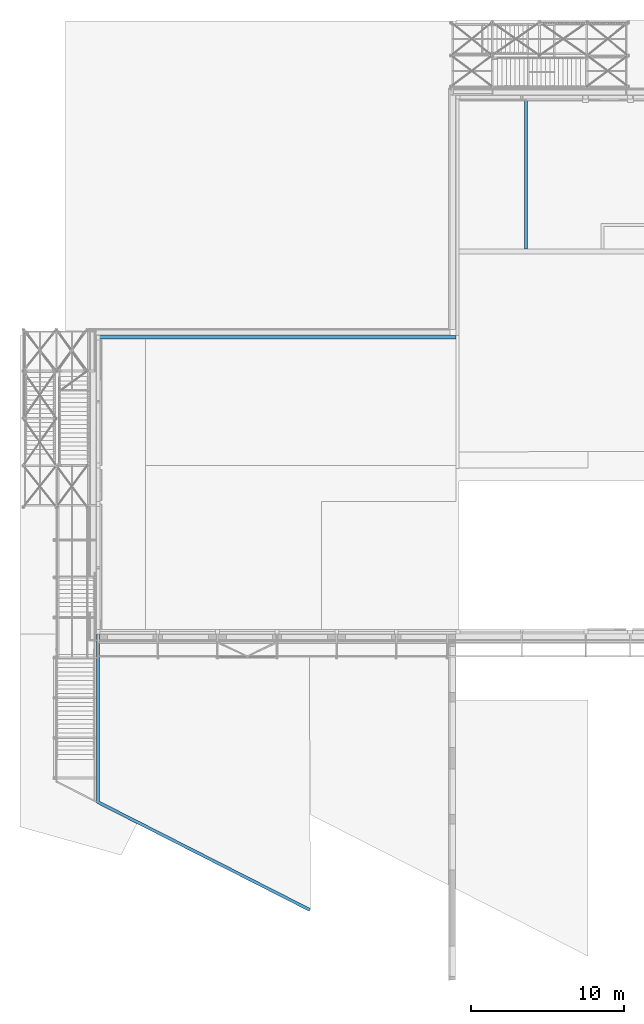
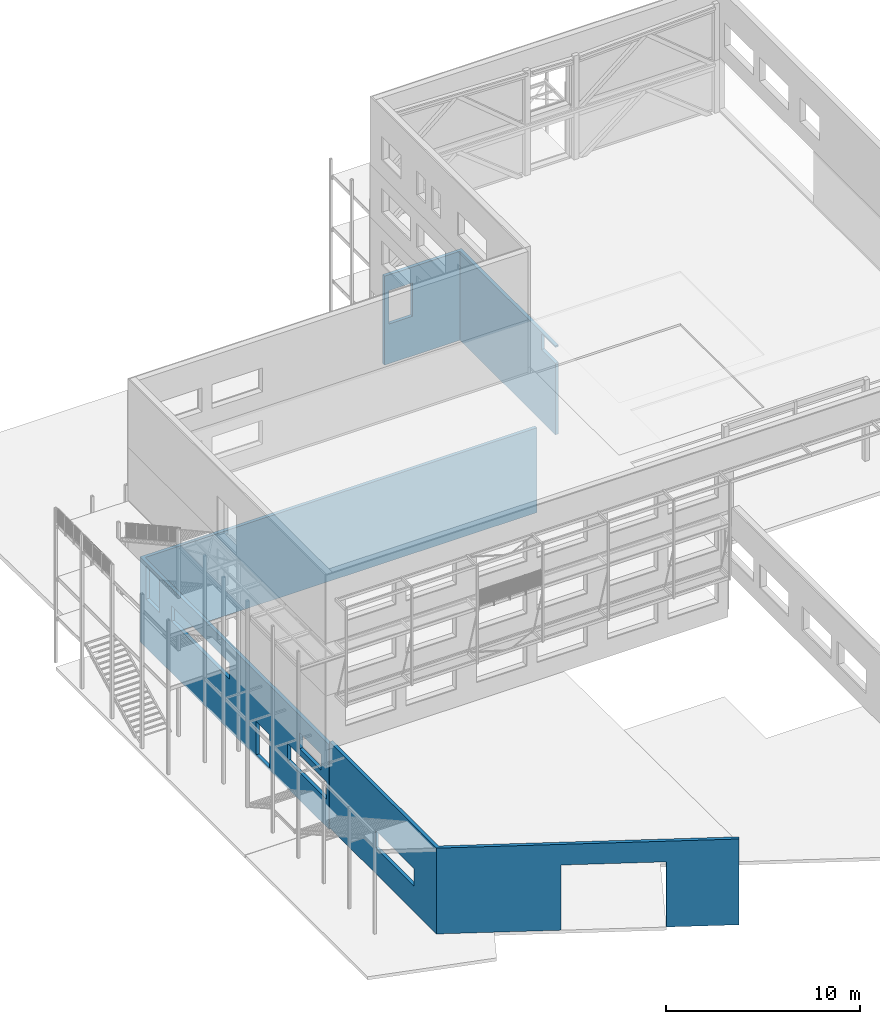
# One storey, part 78 of 78: 3 walls, 3 elements without a shape of their own.
"""IFC2X3 building model written with IfcOpenShell, lengths in millimetres."""

import ifcopenshell
import ifcopenshell.guid

model = None  # the IFC model being written
_history = None  # IfcOwnerHistory: only IFC2X3 demands one
_inside = {}  # id of a spatial element -> (the spatial element, [elements in it])
_under = {}  # id of a project, library or spatial element -> (it, [spatial elements below it])
_declared = {}  # id of a project -> (the project, [libraries it declares])
_typed = {}  # id of a type object -> (the type object, [elements of that type])
_made_of = {}  # id of a material, layer set ... -> (it, [elements and type objects made of it])


def new_model(schema):
    """Start an empty IFC model of exactly this schema.

    Asked for "IFC4X3", IfcOpenShell would pick the latest addendum, in which some entities
    have other attributes; the version numbers below select the first issue.
    IFC2X3 requires an IfcOwnerHistory on every rooted entity: one is made here for all.
    """
    global model, _history
    if schema == "IFC4X3":
        model = ifcopenshell.file(schema_version=(4, 3, 0, 0))
    else:
        model = ifcopenshell.file(schema=schema)
    _inside.clear()
    _under.clear()
    _declared.clear()
    _typed.clear()
    _made_of.clear()
    _history = None
    if model.schema == "IFC2X3":
        org = make("IfcOrganization", Name="unknown")
        user = make(
            "IfcPersonAndOrganization",
            ThePerson=make("IfcPerson", FamilyName="unknown"),
            TheOrganization=org,
        )
        app = make(
            "IfcApplication",
            ApplicationDeveloper=org,
            Version="unknown",
            ApplicationFullName="unknown",
            ApplicationIdentifier="unknown",
        )
        _history = make(
            "IfcOwnerHistory",
            OwningUser=user,
            OwningApplication=app,
            ChangeAction="ADDED",
            CreationDate=0,
        )
    return model


def make(cls, **values):
    """One entity of the class cls with the attributes given. An attribute that is None is left unset."""
    return model.create_entity(
        cls, **{name: value for name, value in values.items() if value is not None}
    )


def rooted(cls, **values):
    """An entity with a GlobalId (a new one), such as an element, a storey or a relation."""
    return make(cls, GlobalId=ifcopenshell.guid.new(), OwnerHistory=_history, **values)


def si_unit(unit_type, name, prefix=None):
    """IfcSIUnit, for example si_unit("LENGTHUNIT", "METRE", prefix="MILLI")."""
    return make("IfcSIUnit", UnitType=unit_type, Prefix=prefix, Name=name)


def assignment(units):
    """IfcUnitAssignment: the units of a project."""
    return None if units is None else make("IfcUnitAssignment", Units=units)


def point(xyz):
    """IfcCartesianPoint."""
    return None if xyz is None else make("IfcCartesianPoint", Coordinates=xyz)


def direction(xyz):
    """IfcDirection."""
    return None if xyz is None else make("IfcDirection", DirectionRatios=xyz)


def frame(location, z_axis=None, x_axis=None):
    """IfcAxis2Placement3D, a coordinate frame: its origin and axes. An axis left out is left unset."""
    return make(
        "IfcAxis2Placement3D",
        Location=point(location),
        Axis=direction(z_axis),
        RefDirection=direction(x_axis),
    )


def origin_with_axes():
    """The frame at (0, 0, 0) with the z axis (0, 0, 1) and the x axis (1, 0, 0) written out."""
    return frame((0.0, 0.0, 0.0), z_axis=(0.0, 0.0, 1.0), x_axis=(1.0, 0.0, 0.0))


def place(relative_to, where):
    """IfcLocalPlacement: puts the frame where relative to a parent placement (None: the world)."""
    return make(
        "IfcLocalPlacement", PlacementRelTo=relative_to, RelativePlacement=where
    )


def context(
    kind, dimensions, precision=None, world=None, true_north=None, identifier=None
):
    """IfcGeometricRepresentationContext, for example the 3D "Model" context."""
    return make(
        "IfcGeometricRepresentationContext",
        ContextIdentifier=identifier,
        ContextType=kind,
        CoordinateSpaceDimension=dimensions,
        Precision=precision,
        WorldCoordinateSystem=world,
        TrueNorth=true_north,
    )


def subcontext(parent, identifier, kind, view, scale=None):
    """IfcGeometricRepresentationSubContext, for example "Body" below "Model"."""
    return make(
        "IfcGeometricRepresentationSubContext",
        ContextIdentifier=identifier,
        ContextType=kind,
        ParentContext=parent,
        TargetScale=scale,
        TargetView=view,
    )


def project(units=None, contexts=None):
    """IfcProject with its units and contexts."""
    return rooted(
        "IfcProject",
        Name="project",
        RepresentationContexts=contexts,
        UnitsInContext=assignment(units),
    )


def spatial(cls, under=None, at=None, **own):
    """A site, building, storey or space (cls), placed at a placement, below another one or the project."""
    s = rooted(cls, ObjectPlacement=at, **own)
    if under is not None:
        _under.setdefault(under.id(), (under, []))[1].append(s)
    return s


def faces_of(points, faces, orient=None, outer=None):
    """IfcFace entities. A face is a list of loops; a loop is a list of indices into points, from 0.

    orient and outer hold one flag for each loop. By default every Orientation is true, the
    first loop of a face is its IfcFaceOuterBound and the others are IfcFaceBound.
    """
    made = []
    for i, loops in enumerate(faces):
        bounds = []
        for j, loop in enumerate(loops):
            is_outer = j == 0 if outer is None else outer[i][j]
            bounds.append(
                make(
                    "IfcFaceOuterBound" if is_outer else "IfcFaceBound",
                    Bound=make("IfcPolyLoop", Polygon=[points[k] for k in loop]),
                    Orientation=True if orient is None else orient[i][j],
                )
            )
        made.append(make("IfcFace", Bounds=bounds))
    return made


def faceted_brep(points, faces, orient=None, outer=None, voids=None):
    """IfcFacetedBrep: a solid bounded by flat faces; with voids (closed shells), ...WithVoids."""
    shared = [point(p) for p in points]
    hull = make("IfcClosedShell", CfsFaces=faces_of(shared, faces, orient, outer))
    if voids is None:
        return make("IfcFacetedBrep", Outer=hull)
    return make(
        "IfcFacetedBrepWithVoids",
        Outer=hull,
        Voids=[
            make(cls, CfsFaces=faces_of(shared, fs, o, b)) for cls, fs, o, b in voids
        ],
    )


def shape(context_of_items, identifier, shape_type, items):
    """IfcShapeRepresentation: the items that make up one representation, for example the "Body"."""
    return make(
        "IfcShapeRepresentation",
        ContextOfItems=context_of_items,
        RepresentationIdentifier=identifier,
        RepresentationType=shape_type,
        Items=items,
    )


def material(Name=None, Category=None):
    """IfcMaterial."""
    return make("IfcMaterial", Name=Name, Category=Category)


def made_of(thing, what):
    """Note that an element or type object is made of a material, layer set ...; save() writes the relation."""
    if what is not None:
        _made_of.setdefault(what.id(), (what, []))[1].append(thing)
    return thing


def type_object(cls, material=None, **own):
    """A type object (cls), such as IfcWallType, which elements share."""
    return made_of(rooted(cls, **own), material)


def element(
    cls,
    number,
    at=None,
    inside=None,
    cuts=None,
    type_object=None,
    material=None,
    context=None,
    identifier="Body",
    shape_type=None,
    held_by="IfcProductDefinitionShape",
    body=None,
    shapes=None,
    **own,
):
    """One element of the class cls, such as IfcWall. Its Tag is "e" and its number.

    at: its placement. inside: the storey or other place that contains it. cuts: it is an
    opening in that element (IfcRelVoidsElement). A single representation is given by context,
    identifier, shape_type and body (its items); several are given by shapes. held_by: the class
    of the entity that holds the representations. save() writes the other relations.
    """
    e = rooted(cls, Tag="e%d" % number, ObjectPlacement=at, **own)
    if body is not None:
        shapes = [shape(context, identifier, shape_type, body)]
    if shapes is not None:
        e.Representation = make(held_by, Representations=shapes)
    if inside is not None:
        _inside.setdefault(inside.id(), (inside, []))[1].append(e)
    if cuts is not None:
        rooted(
            "IfcRelVoidsElement", RelatingBuildingElement=cuts, RelatedOpeningElement=e
        )
    if type_object is not None:
        _typed.setdefault(type_object.id(), (type_object, []))[1].append(e)
    return made_of(e, material)


def aggregate(whole, parts):
    """IfcRelAggregates: a whole, such as a stair, and the parts it consists of."""
    return rooted("IfcRelAggregates", RelatingObject=whole, RelatedObjects=parts)


def save(model, path):
    """Write the relations noted so far, then the file.

    IfcRelAggregates (storeys below a building ...), IfcRelContainedInSpatialStructure (elements
    in a storey), IfcRelDefinesByType, IfcRelAssociatesMaterial and IfcRelDeclares: one each for
    every whole, place, type object, material and project.
    """
    for whole, parts in _under.values():
        aggregate(whole, parts)
    for where, things in _inside.values():
        rooted(
            "IfcRelContainedInSpatialStructure",
            RelatedElements=things,
            RelatingStructure=where,
        )
    for kind, things in _typed.values():
        rooted("IfcRelDefinesByType", RelatedObjects=things, RelatingType=kind)
    for what, things in _made_of.values():
        rooted("IfcRelAssociatesMaterial", RelatedObjects=things, RelatingMaterial=what)
    for by, libraries in _declared.values():
        rooted("IfcRelDeclares", RelatingContext=by, RelatedDefinitions=libraries)
    model.write(path)


model = new_model("IFC2X3")

# Units and contexts
model_context = context("Model", 3, precision=1e-05, world=origin_with_axes())
body_context = subcontext(model_context, "Body", "Model", "MODEL_VIEW")
ifc_project = project(units=[si_unit("LENGTHUNIT", "METRE", prefix="MILLI"), si_unit("AREAUNIT", "SQUARE_METRE"), si_unit("VOLUMEUNIT", "CUBIC_METRE"), si_unit("MASSUNIT", "GRAM", prefix="KILO"), si_unit("TIMEUNIT", "SECOND"), si_unit("PLANEANGLEUNIT", "RADIAN"), si_unit("SOLIDANGLEUNIT", "STERADIAN"), si_unit("THERMODYNAMICTEMPERATUREUNIT", "DEGREE_CELSIUS"), si_unit("LUMINOUSINTENSITYUNIT", "LUMEN")], contexts=[model_context])

# Site, building, storey
site_placement = place(None, origin_with_axes())
site = spatial("IfcSite", under=ifc_project, at=site_placement, Name="Site", CompositionType="ELEMENT")
building_placement = place(site_placement, origin_with_axes())
building = spatial("IfcBuilding", under=site, at=building_placement, Name="Undefined", CompositionType="ELEMENT")
storey_placement = place(building_placement, origin_with_axes())
storey = spatial("IfcBuildingStorey", under=building, at=storey_placement, Name="Undefined", CompositionType="ELEMENT", Elevation=0.0)

# Assembly, wall
assembly_1_placement = place(storey_placement, origin_with_axes())
assembly_1 = element("IfcElementAssembly", 1, at=assembly_1_placement, inside=storey, Name="PANNEAU", AssemblyPlace="NOTDEFINED", PredefinedType="REINFORCEMENT_UNIT")
ifc_material = material(Name="CONCRETE/C25/30")
wall_type_1 = type_object("IfcWallType", Name="5400*200", PredefinedType="NOTDEFINED")
wall_1_placement = place(assembly_1_placement, frame((-30504.9998168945, -7115.00004577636, 148000.040011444), z_axis=(0.0, 0.0, 1.0), x_axis=(0.0, -1.0, 0.0)))
wall_1 = element("IfcWall", 2, at=wall_1_placement, type_object=wall_type_1, material=ifc_material, Name="PANNEAU", ObjectType="5400*200", context=body_context, shape_type="Brep", body=[
    faceted_brep([(13970.63528367, 5627.69983331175, 0.0), (13792.3912222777, 5718.41396990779, 0.0), (13792.3919929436, 5718.41548418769, 4099.99986200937), (13970.6360543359, 5627.70134759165, 4099.99990419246), (16438.0123818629, 10475.8441656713, 4099.99990523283), (16259.7683204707, 10566.5583022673, 4099.99986304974), (16259.7683208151, 10566.5583029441, 0.0), (16438.0123822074, 10475.8441663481, 0.0), (4.43687895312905e-08, -99.9999999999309, 0.0), (0.0, -100.0, 5400.0), (0.0, 100.0, 5400.0), (-4.43651515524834e-08, 99.9999999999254, 0.0), (10932.9990492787, 100.000000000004, 5400.0), (10932.9990492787, 100.000000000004, 0.0), (4754.93621826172, 100.0, 1599.99990463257), (8754.93621826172, 100.000000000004, 1599.99990463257), (8754.93621826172, 100.000000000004, 2699.99980926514), (4754.93621826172, 100.0, 2699.99980926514), (4754.93621826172, -100.0, 2699.99980926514), (8754.93621826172, -99.9999999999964, 2699.99980926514), (4754.93621826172, -100.0, 1599.99990463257), (8754.93621826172, -99.9999999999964, 1599.99990463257), (11055.6240081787, -99.9999999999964, 0.0), (11055.6240081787, -99.9999999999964, 5400.0), (18143.9552307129, 13827.8478622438, 5400.0), (17965.7111766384, 13918.5620132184, 5400.0), (18143.9552307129, 13827.8478622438, 0.0), (17965.7111766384, 13918.5620132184, 0.0)], [[[0, 1, 2, 3]], [[4, 5, 6, 7]], [[3, 2, 5, 4]], [[8, 9, 10, 11]], [[11, 10, 12, 13], [14, 15, 16, 17]], [[18, 17, 16, 19]], [[20, 14, 17, 18]], [[21, 15, 14, 20]], [[19, 16, 15, 21]], [[9, 8, 22, 23], [20, 18, 19, 21]], [[12, 10, 9, 23, 24, 25]], [[24, 26, 27, 25]], [[27, 26, 7, 6]], [[1, 13, 12, 25, 27, 6, 5, 2]], [[22, 8, 11, 13, 1, 0]], [[26, 24, 23, 22, 0, 3, 4, 7]]]),
])
aggregate(assembly_1, [wall_1])

assembly_2_placement = place(storey_placement, origin_with_axes())
assembly_2 = element("IfcElementAssembly", 3, at=assembly_2_placement, inside=storey, Name="PANNEAU", AssemblyPlace="NOTDEFINED", PredefinedType="REINFORCEMENT_UNIT")
wall_type_2 = type_object("IfcWallType", Name="5340*200", PredefinedType="NOTDEFINED")
wall_2_placement = place(assembly_2_placement, frame((-30504.9998168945, -7084.99983596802, 147860.03990654), z_axis=(0.0, 0.0, 1.0), x_axis=(0.0, 1.0, 0.0)))
wall_2 = element("IfcWall", 4, at=wall_2_placement, type_object=wall_type_2, material=ifc_material, Name="PANNEAU", ObjectType="5340*200", context=body_context, shape_type="Brep", body=[
    faceted_brep([(3035.79783439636, -100.0, 3240.00000953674), (3035.79783439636, 100.0, 3240.00000953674), (835.798263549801, 100.0, 3240.00000953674), (835.798263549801, -100.0, 3240.00000953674), (835.798263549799, 100.0, 4240.00000953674), (835.798263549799, -100.0, 4240.00000953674), (3035.79783439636, 100.0, 4240.00000953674), (3035.79783439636, -100.0, 4240.00000953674), (19299.9995231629, -100.0, 0.0), (4.43687895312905e-08, -99.9999999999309, 0.0), (-4.43651515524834e-08, 99.9999999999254, 0.0), (19499.9995231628, 100.0, 0.0), (19499.9995231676, -23419.9999801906, 0.0), (19299.9995231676, -23419.9999801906, 0.0), (0.0, -100.0, 5340.0), (0.0, 100.0, 5340.0), (19499.9995231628, 100.0, 5340.0), (19299.9995231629, -100.0, 5340.0), (19299.9995231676, -23419.9999801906, 5340.0), (19499.9995231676, -23419.9999801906, 5340.0), (17477.6530265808, -100.0, 5140.00000953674), (17477.6530265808, 100.0, 5140.00000953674), (18877.6526451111, 100.0, 5140.00000953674), (18877.6526451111, -100.0, 5140.00000953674), (17477.6530265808, -100.0, 3040.00010490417), (17477.6530265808, 100.0, 3040.00010490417), (18877.6535987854, -100.0, 3040.00010490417), (18877.6535987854, 100.0, 3040.00010490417), (10259.2282295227, -100.0, 4240.00000953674), (10259.2282295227, 100.0, 4240.00000953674), (16259.2282295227, 100.0, 4240.00000953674), (16259.2282295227, -100.0, 4240.00000953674), (10259.2282295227, -100.0, 3240.00000953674), (10259.2282295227, 100.0, 3240.00000953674), (16259.2282295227, -100.0, 3240.00000953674), (16259.2282295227, 100.0, 3240.00000953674), (6110.09228229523, -100.0, 2240.00000953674), (6110.09228229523, 100.0, 2240.00000953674), (7510.67113876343, 100.0, 2240.00000953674), (7510.67113876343, -100.0, 2240.00000953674), (6110.09228229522, -100.0, 140.000343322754), (6110.09228229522, 100.0, 140.000343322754), (7510.67113876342, -100.0, 140.000104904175), (7510.67113876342, 100.0, 140.000104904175), (275.544166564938, -100.0, 1740.00024795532), (275.54416656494, -100.0, 2839.99991416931), (4275.54398775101, -100.0, 2839.99991416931), (4275.54398775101, -100.0, 1740.00024795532), (275.544166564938, 100.0, 1740.00024795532), (275.54416656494, 100.0, 2839.99991416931), (4275.54398775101, 100.0, 1740.00024795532), (4275.54398775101, 100.0, 2839.99991416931)], [[[0, 1, 2, 3]], [[3, 2, 4, 5]], [[5, 4, 6, 7]], [[7, 6, 1, 0]], [[8, 9, 10, 11, 12, 13]], [[9, 14, 15, 10]], [[16, 15, 14, 17, 18, 19]], [[11, 16, 19, 12]], [[18, 13, 12, 19]], [[17, 8, 13, 18]], [[20, 21, 22, 23]], [[24, 25, 21, 20]], [[26, 27, 25, 24]], [[23, 22, 27, 26]], [[28, 29, 30, 31]], [[32, 33, 29, 28]], [[34, 35, 33, 32]], [[31, 30, 35, 34]], [[36, 37, 38, 39]], [[40, 41, 37, 36]], [[42, 43, 41, 40]], [[39, 38, 43, 42]], [[14, 9, 8, 17], [3, 5, 7, 0], [44, 45, 46, 47], [40, 36, 39, 42], [32, 28, 31, 34], [24, 20, 23, 26]], [[44, 48, 49, 45]], [[47, 50, 48, 44]], [[46, 51, 50, 47]], [[45, 49, 51, 46]], [[10, 15, 16, 11], [2, 1, 6, 4], [48, 50, 51, 49], [41, 43, 38, 37], [33, 35, 30, 29], [25, 27, 22, 21]]]),
])
aggregate(assembly_2, [wall_2])

assembly_3_placement = place(storey_placement, origin_with_axes())
assembly_3 = element("IfcElementAssembly", 5, at=assembly_3_placement, inside=storey, Name="PANNEAU", AssemblyPlace="NOTDEFINED", PredefinedType="REINFORCEMENT_UNIT")
wall_type_3 = type_object("IfcWallType", Name="5600*200", PredefinedType="NOTDEFINED")
wall_3_placement = place(assembly_3_placement, frame((-7084.99983670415, 28034.9999542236, 147600.100235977), z_axis=(0.0, 0.0, 1.0), x_axis=(1.0, 0.0, 0.0)))
wall_3 = element("IfcWall", 6, at=wall_3_placement, type_object=wall_type_3, material=ifc_material, Name="PANNEAU", ObjectType="5600*200", context=body_context, shape_type="Brep", body=[
    faceted_brep([(4699.09843869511, -9931.93664482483, 4499.93991980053), (4699.09843869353, -8491.93801879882, 4499.93991980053), (4499.09843869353, -8491.93801879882, 4499.93990959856), (4499.09843869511, -9931.93664482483, 4499.93990959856), (4699.09843868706, -8491.93801879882, 5499.93991980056), (4499.09843868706, -8491.93801879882, 5499.93990959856), (4699.09843868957, -9931.9366455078, 5499.93991980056), (4499.09843868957, -9931.93664482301, 5499.93990959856), (4499.09843872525, -99.9999999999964, 6.79283402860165e-08), (4.43687895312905e-08, -99.9999999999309, 0.0), (-4.43651515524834e-08, 99.9999999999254, 0.0), (4699.09843872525, 100.000000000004, 7.092603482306e-08), (4699.09843872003, -9931.93664483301, 9.39762685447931e-08), (4499.09843872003, -9931.93664483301, 9.08912625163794e-08), (-1.42363205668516e-08, -100.0, 5600.00000000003), (-1.42372300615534e-08, 100.0, 5600.00000000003), (4699.0984386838, 100.000000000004, 5600.00000007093), (263.034216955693, 100.0, 2499.93978888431), (1663.03431232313, 100.0, 2499.93986029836), (1663.03420524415, 100.0, 4599.93976493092), (263.034109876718, 100.0, 4599.93969351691), (263.034109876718, -100.0, 4599.93969351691), (1663.03420524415, -100.0, 4599.93976493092), (263.034216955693, -100.0, 2499.93978888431), (1663.03431232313, -100.0, 2499.93986029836), (4499.0984386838, -99.9999999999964, 5600.00000006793), (4499.09843868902, -9931.93664482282, 5600.00000009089), (4699.09843868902, -9931.93664482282, 5600.00000009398)], [[[0, 1, 2, 3]], [[4, 5, 2, 1]], [[6, 7, 5, 4]], [[8, 9, 10, 11, 12, 13]], [[9, 14, 15, 10]], [[10, 15, 16, 11], [17, 18, 19, 20]], [[21, 20, 19, 22]], [[23, 17, 20, 21]], [[24, 18, 17, 23]], [[22, 19, 18, 24]], [[14, 9, 8, 25], [23, 21, 22, 24]], [[16, 15, 14, 25, 26, 27]], [[1, 0, 12, 11, 16, 27, 6, 4]], [[13, 12, 0, 3]], [[26, 25, 8, 13, 3, 2, 5, 7]], [[27, 26, 7, 6]]]),
])
aggregate(assembly_3, [wall_3])

save(model, "model.ifc")
